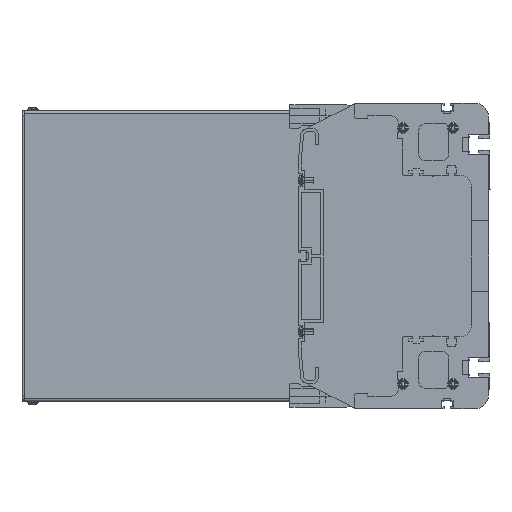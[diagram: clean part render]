
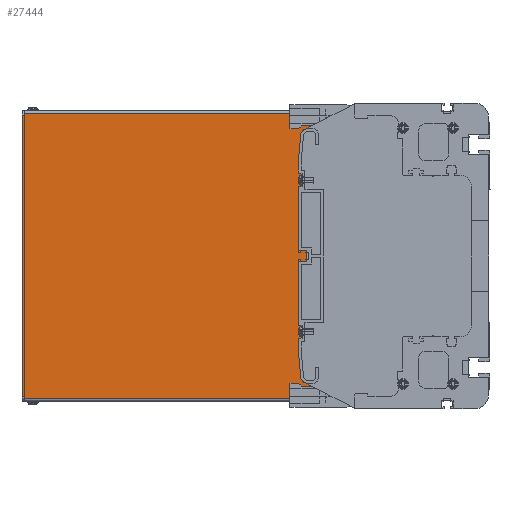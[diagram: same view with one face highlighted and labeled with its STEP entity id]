
A CAD part, left-side view. The second image highlights one B-rep face of the part: STEP entity #27444.
In plain terms, the highlighted planar face has unit normal (-1, 0, 0).
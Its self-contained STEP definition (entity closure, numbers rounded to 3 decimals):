
#3980=DIRECTION('',(0.,0.,1.));
#3981=VECTOR('',#3980,2.8);
#3982=CARTESIAN_POINT('',(-134.5,95.,97.2));
#3983=LINE('',#3982,#3981);
#4280=DIRECTION('',(0.,1.,0.));
#4281=VECTOR('',#4280,1.5);
#4282=CARTESIAN_POINT('',(-134.5,326.,98.5));
#4283=LINE('',#4282,#4281);
#4288=DIRECTION('',(0.,0.,-1.));
#4289=VECTOR('',#4288,1.5);
#4290=CARTESIAN_POINT('',(-134.5,326.,-98.5));
#4291=LINE('',#4290,#4289);
#4292=DIRECTION('',(0.,0.,-1.));
#4293=VECTOR('',#4292,1.5);
#4294=CARTESIAN_POINT('',(-134.5,326.,100.));
#4295=LINE('',#4294,#4293);
#4296=DIRECTION('',(0.,0.,1.));
#4297=VECTOR('',#4296,194.4);
#4298=CARTESIAN_POINT('',(-134.5,95.,-97.2));
#4299=LINE('',#4298,#4297);
#4304=DIRECTION('',(0.,-1.,0.));
#4305=VECTOR('',#4304,1.5);
#4306=CARTESIAN_POINT('',(-134.5,327.5,-98.5));
#4307=LINE('',#4306,#4305);
#4466=DIRECTION('',(0.,0.,-1.));
#4467=VECTOR('',#4466,2.8);
#4468=CARTESIAN_POINT('',(-134.5,95.,-97.2));
#4469=LINE('',#4468,#4467);
#4763=DIRECTION('',(0.,0.,1.));
#4764=VECTOR('',#4763,197.);
#4765=CARTESIAN_POINT('',(-134.5,327.5,-98.5));
#4766=LINE('',#4765,#4764);
#5312=DIRECTION('',(0.,1.,0.));
#5313=VECTOR('',#5312,231.);
#5314=CARTESIAN_POINT('',(-134.5,95.,100.));
#5315=LINE('',#5314,#5313);
#5968=DIRECTION('',(0.,-1.,0.));
#5969=VECTOR('',#5968,231.);
#5970=CARTESIAN_POINT('',(-134.5,326.,-100.));
#5971=LINE('',#5970,#5969);
#16837=CARTESIAN_POINT('',(-134.5,326.,100.));
#16839=VERTEX_POINT('',#16837);
#16842=CARTESIAN_POINT('',(-134.5,326.,-100.));
#16844=VERTEX_POINT('',#16842);
#19909=CARTESIAN_POINT('',(-134.5,327.5,98.5));
#19911=VERTEX_POINT('',#19909);
#19913=CARTESIAN_POINT('',(-134.5,327.5,-98.5));
#19914=VERTEX_POINT('',#19913);
#20393=CARTESIAN_POINT('',(-134.5,95.,-97.2));
#20395=VERTEX_POINT('',#20393);
#20407=CARTESIAN_POINT('',(-134.5,95.,-100.));
#20408=VERTEX_POINT('',#20407);
#20417=CARTESIAN_POINT('',(-134.5,95.,97.2));
#20418=CARTESIAN_POINT('',(-134.5,95.,100.));
#20419=VERTEX_POINT('',#20417);
#20420=VERTEX_POINT('',#20418);
#20458=CARTESIAN_POINT('',(-134.5,326.,98.5));
#20460=VERTEX_POINT('',#20458);
#20461=CARTESIAN_POINT('',(-134.5,326.,-98.5));
#20463=VERTEX_POINT('',#20461);
#27421=CARTESIAN_POINT('',(-134.5,210.5,0.));
#27422=DIRECTION('',(1.,0.,0.));
#27423=DIRECTION('',(0.,0.,1.));
#27424=AXIS2_PLACEMENT_3D('',#27421,#27422,#27423);
#27425=PLANE('',#27424);
#27426=ORIENTED_EDGE('',*,*,#27321,.F.);
#27428=ORIENTED_EDGE('',*,*,#27427,.F.);
#27430=ORIENTED_EDGE('',*,*,#27429,.T.);
#27431=ORIENTED_EDGE('',*,*,#27412,.F.);
#27432=ORIENTED_EDGE('',*,*,#27309,.F.);
#27434=ORIENTED_EDGE('',*,*,#27433,.F.);
#27435=ORIENTED_EDGE('',*,*,#27033,.F.);
#27437=ORIENTED_EDGE('',*,*,#27436,.F.);
#27439=ORIENTED_EDGE('',*,*,#27438,.T.);
#27441=ORIENTED_EDGE('',*,*,#27440,.F.);
#27442=EDGE_LOOP('',(#27426,#27428,#27430,#27431,#27432,#27434,#27435,#27437,
#27439,#27441));
#27443=FACE_OUTER_BOUND('',#27442,.F.);
#27444=ADVANCED_FACE('',(#27443),#27425,.F.);
#27033=EDGE_CURVE('',#20419,#20420,#3983,.T.);
#27309=EDGE_CURVE('',#16839,#20460,#4295,.T.);
#27321=EDGE_CURVE('',#20463,#16844,#4291,.T.);
#27412=EDGE_CURVE('',#20460,#19911,#4283,.T.);
#27427=EDGE_CURVE('',#19914,#20463,#4307,.T.);
#27429=EDGE_CURVE('',#19914,#19911,#4766,.T.);
#27433=EDGE_CURVE('',#20420,#16839,#5315,.T.);
#27436=EDGE_CURVE('',#20395,#20419,#4299,.T.);
#27438=EDGE_CURVE('',#20395,#20408,#4469,.T.);
#27440=EDGE_CURVE('',#16844,#20408,#5971,.T.);
